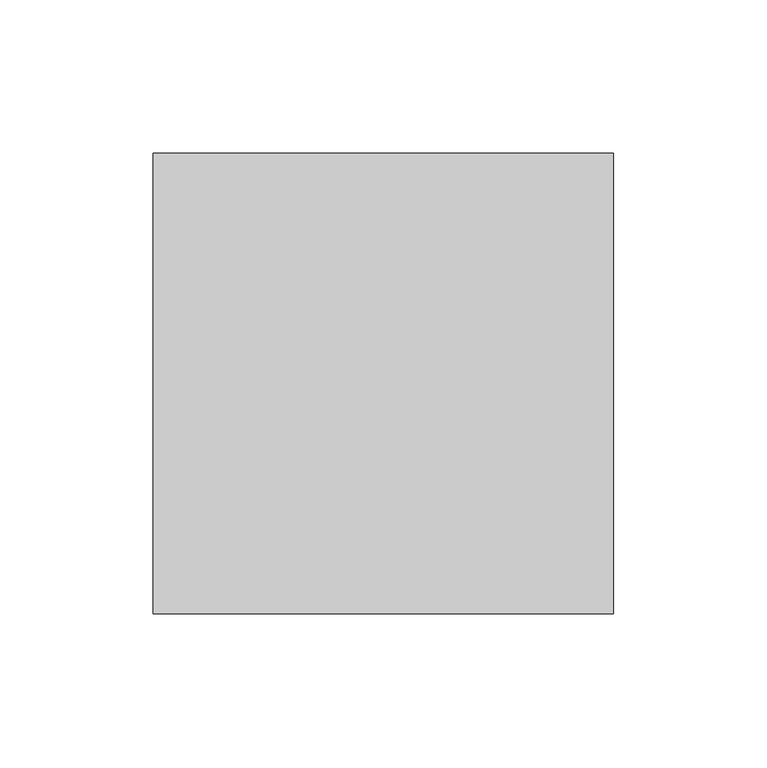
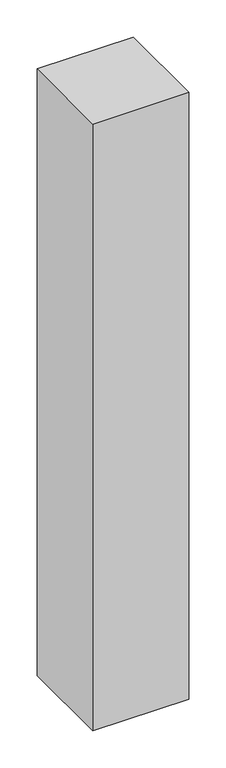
"""IFC4 building model written with IfcOpenShell, lengths in millimetres: proxy geometry, Брус : 150х150."""

from ifc_helpers import new_model, si_unit, origin, origin_with_axes, place, context, project, spatial, polyline, outline, extrude, source, transform, mapped, element, save


def generic_models_6abca7a8(model_context):
    return source(origin(), model_context, "Body", "SweptSolid", [
        extrude(outline(polyline([(150.0, 0.0), (0.0, 0.0), (0.0, 150.0), (150.0, 150.0), (150.0, 0.0)])), origin_with_axes(), (0.0, 0.0, 1.0), 1000.0),
    ])


if __name__ == "__main__":
    model = new_model("IFC4")
    model_context = context("Model", 3, world=origin())
    ifc_project = project(units=[si_unit("LENGTHUNIT", "METRE", prefix="MILLI")], contexts=[model_context])
    site = spatial("IfcSite", under=ifc_project)
    building = spatial("IfcBuilding", under=site)
    placement = place(None, origin())
    generic_models_shape = generic_models_6abca7a8(model_context)
    element("IfcBuildingElementProxy", 1, Name="Брус : 150х150", ObjectType="Брус : 150х150", at=placement, inside=building, context=model_context, shape_type="MappedRepresentation", body=[
        mapped(generic_models_shape, transform((0.0, 0.0, 0.0), x_axis=(1.0, 0.0, 0.0), y_axis=(0.0, 1.0, 0.0), z_axis=(0.0, 0.0, 1.0))),
    ])
    save(model, "model.ifc")
